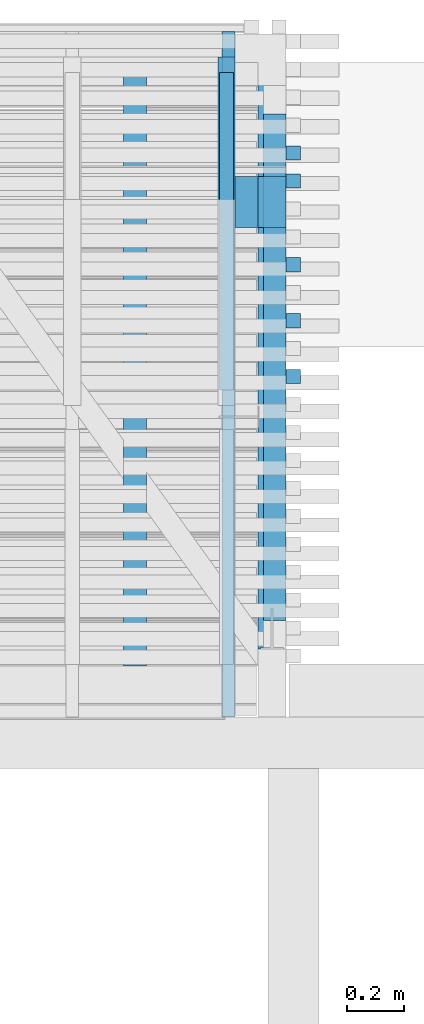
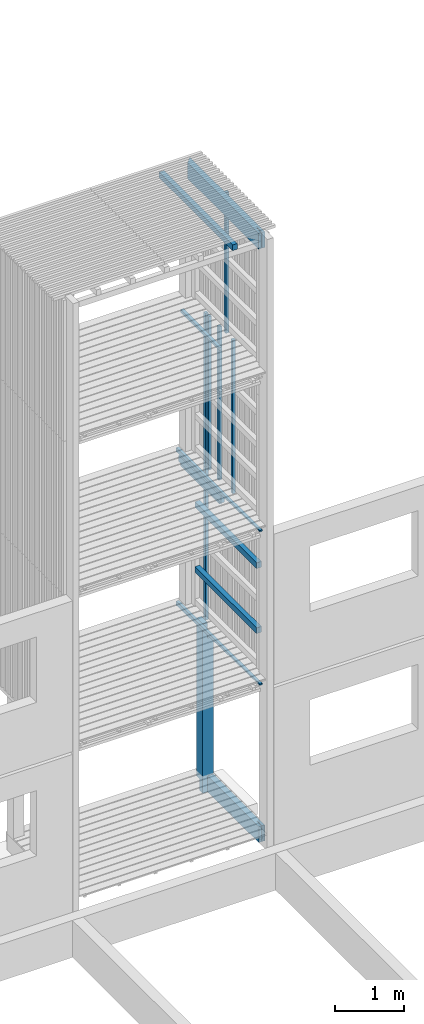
# One storey, part 54 of 182: 17 beams.
"""IFC2X3 building model written with IfcOpenShell, lengths in metres."""

from ifc_helpers import new_model, si_unit, frame, origin, place, context, project, spatial, faceted_brep, element, save


model = new_model("IFC2X3")

# Units and contexts
model_context = context("Model", 3, precision=1e-06, world=origin())
ifc_project = project(units=[si_unit("LENGTHUNIT", "METRE"), si_unit("PLANEANGLEUNIT", "RADIAN")], contexts=[model_context])

# Site, building, storey
site = spatial("IfcSite", under=ifc_project, CompositionType="ELEMENT")
building = spatial("IfcBuilding", under=site, CompositionType="ELEMENT")
storey = spatial("IfcBuildingStorey", under=building, Name="vs", CompositionType="ELEMENT", Elevation=-0.85)

# Beams
placement = place(None, origin())
beam_1_placement = place(placement, frame((16.451697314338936, 10.4700776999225, 2.684400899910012), z_axis=(0.0, 0.0, 1.0), x_axis=(0.0, 1.0, 0.0)))
element("IfcBeam", 1, at=beam_1_placement, inside=storey, Name="Calage", context=model_context, shape_type="Brep", body=[
    faceted_brep([(2.410000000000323, -0.022499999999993, -0.035599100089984), (0.0, -0.022499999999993, 0.012600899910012), (0.0, 0.022500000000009, 0.012600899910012), (2.410000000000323, 0.022500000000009, -0.035599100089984), (0.0, 0.022500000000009, 0.035599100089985), (0.0, 0.022500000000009, 0.012600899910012), (0.0, -0.022499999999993, 0.012600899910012), (0.0, -0.022499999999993, 0.035599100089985), (2.410000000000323, 0.022500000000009, -0.035599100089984), (0.0, 0.022500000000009, 0.012600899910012), (0.0, 0.022500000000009, 0.035599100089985), (2.410000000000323, 0.022500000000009, 0.035599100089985), (2.410000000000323, -0.022499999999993, 0.035599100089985), (0.0, -0.022499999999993, 0.035599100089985), (0.0, -0.022499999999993, 0.012600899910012), (2.410000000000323, -0.022499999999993, -0.035599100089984), (2.410000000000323, 0.022500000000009, 0.035599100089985), (0.0, 0.022500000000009, 0.035599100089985), (0.0, -0.022499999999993, 0.035599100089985), (2.410000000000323, -0.022499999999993, 0.035599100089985), (2.410000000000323, 0.022500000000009, -0.035599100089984), (2.410000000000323, 0.022500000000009, 0.035599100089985), (2.410000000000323, -0.022499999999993, 0.035599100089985), (2.410000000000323, -0.022499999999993, -0.035599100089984)], [[[0, 1, 2, 3]], [[4, 5, 6, 7]], [[8, 9, 10, 11]], [[12, 13, 14, 15]], [[16, 17, 18, 19]], [[20, 21, 22, 23]]]),
])
beam_2_placement = place(placement, frame((16.614197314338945, 10.810077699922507, 4.543749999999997), z_axis=(0.0, 0.0, 1.0), x_axis=(0.0, 1.0, 0.0)))
element("IfcBeam", 2, at=beam_2_placement, inside=storey, Name="Support bardage", context=model_context, shape_type="Brep", body=[
    faceted_brep([(1.779999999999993, -0.039999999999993, 0.050000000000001), (1.779999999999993, -0.039999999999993, -0.050000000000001), (1.779999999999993, 0.04000000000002, -0.050000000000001), (1.779999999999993, 0.04000000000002, 0.050000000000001), (-4e-15, -0.039999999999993, -0.050000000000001), (1.779999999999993, -0.039999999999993, -0.050000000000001), (1.779999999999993, -0.039999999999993, 0.050000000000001), (-4e-15, -0.039999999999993, 0.050000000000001), (-4e-15, 0.04000000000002, -0.050000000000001), (1.779999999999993, 0.04000000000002, -0.050000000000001), (1.779999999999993, -0.039999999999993, -0.050000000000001), (-4e-15, -0.039999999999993, -0.050000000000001), (-4e-15, 0.04000000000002, 0.050000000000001), (1.779999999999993, 0.04000000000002, 0.050000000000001), (1.779999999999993, 0.04000000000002, -0.050000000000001), (-4e-15, 0.04000000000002, -0.050000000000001), (-4e-15, -0.039999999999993, 0.050000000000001), (1.779999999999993, -0.039999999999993, 0.050000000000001), (1.779999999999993, 0.04000000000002, 0.050000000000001), (-4e-15, 0.04000000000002, 0.050000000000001), (-4e-15, -0.039999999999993, -0.050000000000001), (-4e-15, -0.039999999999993, 0.050000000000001), (-4e-15, 0.04000000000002, 0.050000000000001), (-4e-15, 0.04000000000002, -0.050000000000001)], [[[0, 1, 2, 3]], [[4, 5, 6, 7]], [[8, 9, 10, 11]], [[12, 13, 14, 15]], [[16, 17, 18, 19]], [[20, 21, 22, 23]]]),
])
beam_3_placement = place(placement, frame((16.451697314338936, 10.4700776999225, 5.384400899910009), z_axis=(0.0, 0.0, 1.0), x_axis=(0.0, 1.0, 0.0)))
element("IfcBeam", 3, at=beam_3_placement, inside=storey, Name="Calage", context=model_context, shape_type="Brep", body=[
    faceted_brep([(2.410000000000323, -0.022499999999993, -0.035599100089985), (0.0, -0.022499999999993, 0.012600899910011), (0.0, 0.022500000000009, 0.012600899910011), (2.410000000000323, 0.022500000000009, -0.035599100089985), (0.0, 0.022500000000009, 0.035599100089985), (0.0, 0.022500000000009, 0.012600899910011), (0.0, -0.022499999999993, 0.012600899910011), (0.0, -0.022499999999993, 0.035599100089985), (2.410000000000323, 0.022500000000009, -0.035599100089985), (0.0, 0.022500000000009, 0.012600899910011), (0.0, 0.022500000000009, 0.035599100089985), (2.410000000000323, 0.022500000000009, 0.035599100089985), (2.410000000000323, -0.022499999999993, 0.035599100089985), (0.0, -0.022499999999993, 0.035599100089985), (0.0, -0.022499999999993, 0.012600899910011), (2.410000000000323, -0.022499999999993, -0.035599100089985), (2.410000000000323, 0.022500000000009, 0.035599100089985), (0.0, 0.022500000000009, 0.035599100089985), (0.0, -0.022499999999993, 0.035599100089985), (2.410000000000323, -0.022499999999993, 0.035599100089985), (2.410000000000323, 0.022500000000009, -0.035599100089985), (2.410000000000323, 0.022500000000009, 0.035599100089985), (2.410000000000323, -0.022499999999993, 0.035599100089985), (2.410000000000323, -0.022499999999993, -0.035599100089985)], [[[0, 1, 2, 3]], [[4, 5, 6, 7]], [[8, 9, 10, 11]], [[12, 13, 14, 15]], [[16, 17, 18, 19]], [[20, 21, 22, 23]]]),
])
beam_4_placement = place(placement, frame((16.67919731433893, 12.05962315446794, 5.274999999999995), z_axis=(-1.0, 0.0, 0.0), x_axis=(0.0, 0.0, 1.0)))
element("IfcBeam", 4, at=beam_4_placement, inside=storey, Name="Bardage", context=model_context, shape_type="Brep", body=[
    faceted_brep([(1e-15, -0.025000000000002, 0.024999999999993), (1e-15, 0.024999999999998, 0.024999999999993), (1e-15, 0.024999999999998, -0.025000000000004), (1e-15, -0.025000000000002, -0.025000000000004), (2.699999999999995, -0.025000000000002, -0.025000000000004), (2.699999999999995, 0.024999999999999, -0.025000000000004), (2.699999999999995, 0.024999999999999, 0.024999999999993), (2.699999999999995, -0.025000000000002, 0.024999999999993), (1e-15, -0.025000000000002, 0.024999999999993), (1e-15, -0.025000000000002, -0.025000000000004), (2.699999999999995, -0.025000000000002, -0.025000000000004), (2.699999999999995, -0.025000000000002, 0.024999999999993), (2.699999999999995, -0.025000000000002, -0.025000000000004), (1e-15, -0.025000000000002, -0.025000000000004), (1e-15, 0.024999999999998, -0.025000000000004), (2.699999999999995, 0.024999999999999, -0.025000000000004), (2.699999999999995, 0.024999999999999, -0.025000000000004), (1e-15, 0.024999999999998, -0.025000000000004), (1e-15, 0.024999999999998, 0.024999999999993), (2.699999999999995, 0.024999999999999, 0.024999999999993), (2.699999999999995, 0.024999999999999, 0.024999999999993), (1e-15, 0.024999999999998, 0.024999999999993), (1e-15, -0.025000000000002, 0.024999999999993), (2.699999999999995, -0.025000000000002, 0.024999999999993)], [[[0, 1, 2, 3]], [[4, 5, 6, 7]], [[8, 9, 10, 11]], [[12, 13, 14, 15]], [[16, 17, 18, 19]], [[20, 21, 22, 23]]]),
])
beam_5_placement = place(placement, frame((16.60419731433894, 10.715077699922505, 10.314999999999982), z_axis=(0.0, 0.0, 1.0), x_axis=(0.0, 1.0, 0.0)))
element("IfcBeam", 5, at=beam_5_placement, inside=storey, Name="Sommier", context=model_context, shape_type="Brep", body=[
    faceted_brep([(2.054999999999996, 0.049999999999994, 0.140000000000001), (2.054999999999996, 0.049999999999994, -0.140000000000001), (0.0, 0.049999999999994, -0.140000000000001), (0.0, 0.049999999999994, 0.140000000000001), (2.054999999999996, 0.049999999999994, -0.140000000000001), (2.054999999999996, 0.049999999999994, 0.140000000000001), (2.154999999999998, -0.05, 0.140000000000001), (2.154999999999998, -0.05, -0.140000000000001), (-4e-15, -0.003999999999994, 0.140000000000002), (0.0, -0.05, 0.140000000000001), (2.154999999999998, -0.05, 0.140000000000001), (2.054999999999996, 0.049999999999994, 0.140000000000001), (0.0, 0.049999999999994, 0.140000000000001), (-4e-15, 0.004000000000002, 0.140000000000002), (0.136999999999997, 0.004000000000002, 0.140000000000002), (0.136999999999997, -0.003999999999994, 0.140000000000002), (2.154999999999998, -0.05, -0.140000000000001), (2.154999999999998, -0.05, 0.140000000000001), (0.0, -0.05, 0.140000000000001), (0.0, -0.05, -0.140000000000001), (0.0, 0.004000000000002, -0.139999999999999), (-4e-15, 0.004000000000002, 0.140000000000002), (0.0, 0.049999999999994, 0.140000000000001), (0.0, 0.049999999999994, -0.140000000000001), (0.0, -0.05, 0.140000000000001), (-4e-15, -0.003999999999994, 0.140000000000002), (0.0, -0.003999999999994, -0.139999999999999), (0.0, -0.05, -0.140000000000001), (0.0, 0.049999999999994, -0.140000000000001), (2.054999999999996, 0.049999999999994, -0.140000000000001), (2.154999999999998, -0.05, -0.140000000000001), (0.0, -0.05, -0.140000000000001), (0.0, -0.003999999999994, -0.139999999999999), (0.136999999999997, -0.003999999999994, -0.139999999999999), (0.136999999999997, 0.004000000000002, -0.139999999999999), (0.0, 0.004000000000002, -0.139999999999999), (0.136999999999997, 0.004000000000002, -0.139999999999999), (0.136999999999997, -0.003999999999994, -0.139999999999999), (0.136999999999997, -0.003999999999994, 0.140000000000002), (0.136999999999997, 0.004000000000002, 0.140000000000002), (-4e-15, -0.003999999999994, 0.140000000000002), (0.136999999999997, -0.003999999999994, 0.140000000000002), (0.136999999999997, -0.003999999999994, -0.139999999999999), (0.0, -0.003999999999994, -0.139999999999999), (0.136999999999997, 0.004000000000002, 0.140000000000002), (-4e-15, 0.004000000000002, 0.140000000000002), (0.0, 0.004000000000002, -0.139999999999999), (0.136999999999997, 0.004000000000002, -0.139999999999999)], [[[0, 1, 2, 3]], [[4, 5, 6, 7]], [[8, 9, 10, 11, 12, 13, 14, 15]], [[16, 17, 18, 19]], [[20, 21, 22, 23]], [[24, 25, 26, 27]], [[28, 29, 30, 31, 32, 33, 34, 35]], [[36, 37, 38, 39]], [[40, 41, 42, 43]], [[44, 45, 46, 47]]]),
])
beam_6_placement = place(placement, frame((16.67919731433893, 12.452350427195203, 2.575000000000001), z_axis=(-1.0, 0.0, 0.0), x_axis=(0.0, 0.0, 1.0)))
element("IfcBeam", 6, at=beam_6_placement, inside=storey, Name="Bardage", context=model_context, shape_type="Brep", body=[
    faceted_brep([(0.0, -0.024999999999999, 0.024999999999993), (0.0, 0.025000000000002, 0.024999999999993), (0.0, 0.025000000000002, -0.025000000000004), (0.0, -0.024999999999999, -0.025000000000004), (2.699961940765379, 0.025000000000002, -0.025000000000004), (2.699961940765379, 0.025000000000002, 0.024999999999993), (2.699961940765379, -0.024999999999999, 0.024999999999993), (2.699961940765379, -0.024999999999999, -0.025000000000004), (0.0, -0.024999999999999, -0.025000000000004), (0.0, 0.025000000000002, -0.025000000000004), (2.699961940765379, 0.025000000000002, -0.025000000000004), (2.699961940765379, -0.024999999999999, -0.025000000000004), (2.699961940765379, 0.025000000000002, -0.025000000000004), (0.0, 0.025000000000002, -0.025000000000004), (0.0, 0.025000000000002, 0.024999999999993), (2.699961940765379, 0.025000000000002, 0.024999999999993), (2.699961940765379, 0.025000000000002, 0.024999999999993), (0.0, 0.025000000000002, 0.024999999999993), (0.0, -0.024999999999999, 0.024999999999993), (2.699961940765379, -0.024999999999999, 0.024999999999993), (2.699961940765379, -0.024999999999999, 0.024999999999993), (0.0, -0.024999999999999, 0.024999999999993), (0.0, -0.024999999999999, -0.025000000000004), (2.699961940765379, -0.024999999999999, -0.025000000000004)], [[[0, 1, 2, 3]], [[4, 5, 6, 7]], [[8, 9, 10, 11]], [[12, 13, 14, 15]], [[16, 17, 18, 19]], [[20, 21, 22, 23]]]),
])
for number, where, z_axis, x_axis in (
    (7, (16.44419731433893, 12.735077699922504, 7.91739999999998), (0.0, 0.0, 1.0), (0.0, -1.0, 0.0)),
    (8, (16.44419731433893, 12.735077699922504, 5.217399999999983), (0.0, 0.0, 1.0), (0.0, -1.0, 0.0)),
):
    element("IfcBeam", number, at=place(placement, frame(where, z_axis=z_axis, x_axis=x_axis)), inside=storey, Name="Calage", context=model_context, shape_type="Brep", body=[
        faceted_brep([(0.0, 0.025000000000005, -0.025), (0.0, -0.024999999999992, -0.025), (0.0, -0.024999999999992, 0.024999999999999), (0.0, 0.025000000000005, 0.024999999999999), (1.115000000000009, -0.024999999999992, 0.024999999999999), (1.115000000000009, -0.024999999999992, -0.025), (1.115000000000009, 0.025000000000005, -0.025), (1.115000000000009, 0.025000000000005, 0.024999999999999), (0.0, -0.024999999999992, 0.024999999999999), (0.0, -0.024999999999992, -0.025), (1.115000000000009, -0.024999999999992, -0.025), (1.115000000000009, -0.024999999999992, 0.024999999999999), (1.115000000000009, -0.024999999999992, -0.025), (0.0, -0.024999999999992, -0.025), (0.0, 0.025000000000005, -0.025), (1.115000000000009, 0.025000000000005, -0.025), (1.115000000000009, 0.025000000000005, -0.025), (0.0, 0.025000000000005, -0.025), (0.0, 0.025000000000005, 0.024999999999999), (1.115000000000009, 0.025000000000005, 0.024999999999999), (1.115000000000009, 0.025000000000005, 0.024999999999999), (0.0, 0.025000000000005, 0.024999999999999), (0.0, -0.024999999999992, 0.024999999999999), (1.115000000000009, -0.024999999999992, 0.024999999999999)], [[[0, 1, 2, 3]], [[4, 5, 6, 7]], [[8, 9, 10, 11]], [[12, 13, 14, 15]], [[16, 17, 18, 19]], [[20, 21, 22, 23]]]),
    ])
beam_7_placement = place(placement, frame((16.60419731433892, 10.710077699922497, -0.119999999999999), z_axis=(0.0, 0.0, 1.0), x_axis=(0.0, 1.0, 0.0)))
element("IfcBeam", 9, at=beam_7_placement, inside=storey, Name="Sommier", context=model_context, shape_type="Brep", body=[
    faceted_brep([(1.660000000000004, 0.049999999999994, 0.14), (1.660000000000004, -0.050000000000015, 0.14), (1.660000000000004, -0.050000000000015, -0.14), (1.660000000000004, 0.049999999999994, -0.14), (0.142000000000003, -0.004000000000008, -0.14), (0.142000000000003, 0.003999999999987, -0.14), (0.005000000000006, 0.003999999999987, -0.14), (0.005000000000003, 0.040999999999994, -0.14), (4e-15, 0.040999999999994, -0.14), (0.0, 0.049999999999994, -0.14), (1.660000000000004, 0.049999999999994, -0.14), (1.660000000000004, -0.050000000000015, -0.14), (0.0, -0.050000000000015, -0.14), (4e-15, -0.041000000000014, -0.14), (0.005000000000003, -0.041000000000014, -0.14), (0.005000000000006, -0.004000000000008, -0.14), (1.660000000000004, 0.049999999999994, 0.14), (1.660000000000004, 0.049999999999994, -0.14), (0.0, 0.049999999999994, -0.14), (0.0, 0.049999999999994, 0.14), (0.852999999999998, 0.049999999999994, -0.123600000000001), (0.852999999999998, 0.049999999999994, 0.051399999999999), (0.776999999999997, 0.049999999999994, 0.051399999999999), (0.776999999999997, 0.049999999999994, -0.123600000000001), (0.0, -0.050000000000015, 0.14), (4e-15, -0.041000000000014, 0.14), (4e-15, -0.041000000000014, -0.14), (0.0, -0.050000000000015, -0.14), (0.852999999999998, 0.044999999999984, -0.123600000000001), (0.776999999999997, 0.044999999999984, -0.123600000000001), (0.776999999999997, 0.044999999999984, 0.051399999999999), (0.852999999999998, 0.044999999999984, 0.051399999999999), (0.852999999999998, 0.044999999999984, 0.051399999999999), (0.776999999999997, 0.044999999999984, 0.051399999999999), (0.776999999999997, 0.049999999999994, 0.051399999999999), (0.852999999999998, 0.049999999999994, 0.051399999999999), (0.776999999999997, 0.044999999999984, -0.123600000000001), (0.852999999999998, 0.044999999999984, -0.123600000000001), (0.852999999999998, 0.049999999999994, -0.123600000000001), (0.776999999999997, 0.049999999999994, -0.123600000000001), (0.852999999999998, 0.049999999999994, 0.051399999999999), (0.852999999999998, 0.049999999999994, -0.123600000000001), (0.852999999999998, 0.044999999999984, -0.123600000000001), (0.852999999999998, 0.044999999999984, 0.051399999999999), (0.776999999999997, 0.044999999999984, 0.051399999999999), (0.776999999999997, 0.044999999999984, -0.123600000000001), (0.776999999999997, 0.049999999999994, -0.123600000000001), (0.776999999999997, 0.049999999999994, 0.051399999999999), (0.0, -0.050000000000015, -0.14), (1.660000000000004, -0.050000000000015, -0.14), (1.660000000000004, -0.050000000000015, 0.14), (0.0, -0.050000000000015, 0.14), (0.0, 0.049999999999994, 0.14), (0.0, 0.049999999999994, -0.14), (4e-15, 0.040999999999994, -0.14), (4e-15, 0.040999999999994, 0.14), (0.0, -0.050000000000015, 0.14), (1.660000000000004, -0.050000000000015, 0.14), (1.660000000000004, 0.049999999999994, 0.14), (0.0, 0.049999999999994, 0.14), (4e-15, 0.040999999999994, 0.14), (0.005000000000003, 0.040999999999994, 0.14), (0.005000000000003, 0.003999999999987, 0.14), (0.142000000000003, 0.003999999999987, 0.140000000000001), (0.142000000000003, -0.004000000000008, 0.140000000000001), (0.005000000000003, -0.004000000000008, 0.14), (0.005000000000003, -0.041000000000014, 0.14), (4e-15, -0.041000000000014, 0.14), (0.142000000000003, 0.003999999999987, -0.14), (0.142000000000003, -0.004000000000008, -0.14), (0.142000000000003, -0.004000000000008, 0.140000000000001), (0.142000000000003, 0.003999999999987, 0.140000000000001), (0.005000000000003, -0.004000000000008, 0.14), (0.142000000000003, -0.004000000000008, 0.140000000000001), (0.142000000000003, -0.004000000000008, -0.14), (0.005000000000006, -0.004000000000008, -0.14), (0.005000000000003, -0.004000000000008, 0.14), (0.005000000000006, -0.004000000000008, -0.14), (0.005000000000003, -0.041000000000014, -0.14), (0.005000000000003, -0.041000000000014, 0.14), (0.005000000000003, -0.041000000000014, 0.14), (0.005000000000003, -0.041000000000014, -0.14), (4e-15, -0.041000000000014, -0.14), (4e-15, -0.041000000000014, 0.14), (4e-15, 0.040999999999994, 0.14), (4e-15, 0.040999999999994, -0.14), (0.005000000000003, 0.040999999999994, -0.14), (0.005000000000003, 0.040999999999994, 0.14), (0.005000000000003, 0.040999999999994, 0.14), (0.005000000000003, 0.040999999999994, -0.14), (0.005000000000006, 0.003999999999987, -0.14), (0.005000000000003, 0.003999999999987, 0.14), (0.142000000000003, 0.003999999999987, 0.140000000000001), (0.005000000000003, 0.003999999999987, 0.14), (0.005000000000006, 0.003999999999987, -0.14), (0.142000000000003, 0.003999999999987, -0.14)], [[[0, 1, 2, 3]], [[4, 5, 6, 7, 8, 9, 10, 11, 12, 13, 14, 15]], [[16, 17, 18, 19], [20, 21, 22, 23]], [[24, 25, 26, 27]], [[28, 29, 30, 31]], [[32, 33, 34, 35]], [[36, 37, 38, 39]], [[40, 41, 42, 43]], [[44, 45, 46, 47]], [[48, 49, 50, 51]], [[52, 53, 54, 55]], [[56, 57, 58, 59, 60, 61, 62, 63, 64, 65, 66, 67]], [[68, 69, 70, 71]], [[72, 73, 74, 75]], [[76, 77, 78, 79]], [[80, 81, 82, 83]], [[84, 85, 86, 87]], [[88, 89, 90, 91]], [[92, 93, 94, 95]]]),
])
beam_8_placement = place(placement, frame((16.44419731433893, 11.565077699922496, 5.304249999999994), z_axis=(0.0, 0.0, 1.0), x_axis=(0.0, 1.0, 0.0)))
element("IfcBeam", 10, at=beam_8_placement, inside=storey, Name="Solive", context=model_context, shape_type="Brep", body=[
    faceted_brep([(0.0, -0.03, 0.061850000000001), (0.0, -0.03, -0.061849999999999), (1.225000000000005, -0.03, -0.061849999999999), (1.225000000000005, -0.03, 0.03735), (0.0, -0.03, -0.061849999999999), (0.0, -0.03, 0.061850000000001), (0.0, 0.029999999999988, 0.06185), (0.0, 0.029999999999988, -0.061849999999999), (1.225000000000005, -0.03, -0.061849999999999), (0.0, -0.03, -0.061849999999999), (0.0, 0.029999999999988, -0.061849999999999), (1.225000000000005, 0.029999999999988, -0.061849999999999), (1.225000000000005, 0.029999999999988, 0.03735), (1.225000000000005, 0.029999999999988, -0.061849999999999), (0.0, 0.029999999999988, -0.061849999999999), (0.0, 0.029999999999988, 0.06185), (1.225000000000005, -0.03, 0.03735), (1.225000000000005, -0.03, -0.061849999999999), (1.225000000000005, 0.029999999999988, -0.061849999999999), (1.225000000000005, 0.029999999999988, 0.03735), (1.225000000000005, -0.03, 0.03735), (1.225000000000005, 0.029999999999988, 0.03735), (0.0, 0.029999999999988, 0.06185), (0.0, -0.03, 0.061850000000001)], [[[0, 1, 2, 3]], [[4, 5, 6, 7]], [[8, 9, 10, 11]], [[12, 13, 14, 15]], [[16, 17, 18, 19]], [[20, 21, 22, 23]]]),
])
beam_9_placement = place(placement, frame((16.564197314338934, 12.2800776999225, -0.26), z_axis=(0.0, -1.0, 0.0), x_axis=(0.0, 0.0, 1.0)))
element("IfcBeam", 11, at=beam_9_placement, inside=storey, Name="Poteau", context=model_context, shape_type="Brep", body=[
    faceted_brep([(2.699999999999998, -0.09, -0.09), (2.699999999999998, -0.09, 0.09), (0.28, -0.09, 0.09), (0.280000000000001, -0.09, -0.09), (0.0, 0.090000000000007, 0.09), (0.0, 0.090000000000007, -0.009999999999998), (0.0, 0.010000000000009, -0.009999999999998), (0.0, 0.010000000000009, 0.09), (0.280000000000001, -0.09, -0.09), (0.28, -0.09, 0.09), (0.28, 0.010000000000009, 0.09), (0.28, 0.010000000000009, -0.09), (0.200000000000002, 0.090000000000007, -0.09), (0.200000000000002, 0.010000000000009, -0.09), (0.200000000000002, 0.010000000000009, -0.009999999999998), (0.200000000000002, 0.090000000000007, -0.009999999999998), (0.200000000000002, 0.090000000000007, -0.009999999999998), (0.200000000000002, 0.010000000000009, -0.009999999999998), (0.0, 0.010000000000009, -0.009999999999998), (0.0, 0.090000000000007, -0.009999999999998), (0.0, 0.010000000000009, -0.009999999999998), (0.200000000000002, 0.010000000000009, -0.009999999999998), (0.200000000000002, 0.010000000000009, -0.09), (0.28, 0.010000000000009, -0.09), (0.28, 0.010000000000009, 0.09), (0.0, 0.010000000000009, 0.09), (2.979999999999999, 0.010000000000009, -0.09), (2.699999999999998, 0.010000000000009, -0.09), (2.699999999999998, -0.09, -0.09), (0.280000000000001, -0.09, -0.09), (0.28, 0.010000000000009, -0.09), (0.200000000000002, 0.010000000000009, -0.09), (0.200000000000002, 0.090000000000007, -0.09), (2.979999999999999, 0.090000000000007, -0.09), (2.979999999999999, 0.090000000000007, -0.09), (0.200000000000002, 0.090000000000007, -0.09), (0.200000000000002, 0.090000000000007, -0.009999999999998), (0.0, 0.090000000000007, -0.009999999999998), (0.0, 0.090000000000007, 0.09), (2.979999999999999, 0.090000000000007, 0.09), (2.699999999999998, 0.010000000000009, 0.09), (2.979999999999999, 0.010000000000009, 0.09), (2.979999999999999, 0.090000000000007, 0.09), (0.0, 0.090000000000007, 0.09), (0.0, 0.010000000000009, 0.09), (0.28, 0.010000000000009, 0.09), (0.28, -0.09, 0.09), (2.699999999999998, -0.09, 0.09), (2.979999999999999, 0.090000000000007, -0.09), (2.979999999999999, 0.090000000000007, 0.09), (2.979999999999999, 0.010000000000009, 0.09), (2.979999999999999, 0.010000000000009, -0.09), (2.979999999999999, 0.010000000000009, -0.09), (2.979999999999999, 0.010000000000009, 0.09), (2.699999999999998, 0.010000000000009, 0.09), (2.699999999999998, 0.010000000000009, -0.09), (2.699999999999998, 0.010000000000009, -0.09), (2.699999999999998, 0.010000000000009, 0.09), (2.699999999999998, -0.09, 0.09), (2.699999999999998, -0.09, -0.09)], [[[0, 1, 2, 3]], [[4, 5, 6, 7]], [[8, 9, 10, 11]], [[12, 13, 14, 15]], [[16, 17, 18, 19]], [[20, 21, 22, 23, 24, 25]], [[26, 27, 28, 29, 30, 31, 32, 33]], [[34, 35, 36, 37, 38, 39]], [[40, 41, 42, 43, 44, 45, 46, 47]], [[48, 49, 50, 51]], [[52, 53, 54, 55]], [[56, 57, 58, 59]]]),
])
beam_10_placement = place(placement, frame((16.67919731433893, 11.863259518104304, 7.974999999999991), z_axis=(-1.0, 0.0, 0.0), x_axis=(0.0, 0.0, 1.0)))
element("IfcBeam", 12, at=beam_10_placement, inside=storey, Name="Bardage", context=model_context, shape_type="Brep", body=[
    faceted_brep([(2.479999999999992, -0.024999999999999, 0.024999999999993), (2.479999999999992, -0.024999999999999, -0.025000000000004), (2.479999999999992, 0.024999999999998, -0.025000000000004), (2.479999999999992, 0.024999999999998, 0.024999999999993), (0.0, 0.024999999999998, 0.024999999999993), (0.0, -0.024999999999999, 0.024999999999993), (2.479999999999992, -0.024999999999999, 0.024999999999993), (2.479999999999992, 0.024999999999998, 0.024999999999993), (0.0, -0.024999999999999, 0.024999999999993), (0.0, 0.024999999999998, 0.024999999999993), (0.0, 0.024999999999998, -0.025000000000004), (0.0, -0.024999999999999, -0.025000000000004), (0.0, 0.024999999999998, -0.025000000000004), (0.0, 0.024999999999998, 0.024999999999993), (2.479999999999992, 0.024999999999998, 0.024999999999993), (2.479999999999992, 0.024999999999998, -0.025000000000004), (0.0, -0.024999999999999, -0.025000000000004), (0.0, 0.024999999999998, -0.025000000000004), (2.479999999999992, 0.024999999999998, -0.025000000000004), (2.479999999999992, -0.024999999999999, -0.025000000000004), (2.479999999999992, -0.024999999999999, 0.024999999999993), (0.0, -0.024999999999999, 0.024999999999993), (0.0, -0.024999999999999, -0.025000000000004), (2.479999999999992, -0.024999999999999, -0.025000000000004)], [[[0, 1, 2, 3]], [[4, 5, 6, 7]], [[8, 9, 10, 11]], [[12, 13, 14, 15]], [[16, 17, 18, 19]], [[20, 21, 22, 23]]]),
])
beam_11_placement = place(placement, frame((16.67919731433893, 12.354168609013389, 5.274999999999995), z_axis=(-1.0, 0.0, 0.0), x_axis=(0.0, 0.0, 1.0)))
element("IfcBeam", 13, at=beam_11_placement, inside=storey, Name="Bardage", context=model_context, shape_type="Brep", body=[
    faceted_brep([(1e-15, -0.024999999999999, 0.024999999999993), (1e-15, 0.024999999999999, 0.024999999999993), (1e-15, 0.024999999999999, -0.025000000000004), (1e-15, -0.024999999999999, -0.025000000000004), (2.699999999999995, -0.024999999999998, -0.025000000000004), (2.699999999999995, 0.024999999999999, -0.025000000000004), (2.699999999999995, 0.024999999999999, 0.024999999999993), (2.699999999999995, -0.024999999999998, 0.024999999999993), (1e-15, -0.024999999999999, 0.024999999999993), (1e-15, -0.024999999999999, -0.025000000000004), (2.699999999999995, -0.024999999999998, -0.025000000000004), (2.699999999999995, -0.024999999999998, 0.024999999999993), (2.699999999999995, -0.024999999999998, -0.025000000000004), (1e-15, -0.024999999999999, -0.025000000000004), (1e-15, 0.024999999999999, -0.025000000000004), (2.699999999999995, 0.024999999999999, -0.025000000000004), (2.699999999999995, 0.024999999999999, -0.025000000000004), (1e-15, 0.024999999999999, -0.025000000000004), (1e-15, 0.024999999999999, 0.024999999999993), (2.699999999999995, 0.024999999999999, 0.024999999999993), (2.699999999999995, 0.024999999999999, 0.024999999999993), (1e-15, 0.024999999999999, 0.024999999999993), (1e-15, -0.024999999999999, 0.024999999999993), (2.699999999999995, -0.024999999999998, 0.024999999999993)], [[[0, 1, 2, 3]], [[4, 5, 6, 7]], [[8, 9, 10, 11]], [[12, 13, 14, 15]], [[16, 17, 18, 19]], [[20, 21, 22, 23]]]),
])
beam_12_placement = place(placement, frame((16.12253064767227, 10.650077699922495, 10.404999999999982), z_axis=(0.0, 0.0, 1.0), x_axis=(0.0, 1.0, 0.0)))
element("IfcBeam", 14, at=beam_12_placement, inside=storey, Name="Support bardage", context=model_context, shape_type="Brep", body=[
    faceted_brep([(2.120000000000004, -0.040000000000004, 0.050000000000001), (2.120000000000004, 0.039999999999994, 0.050000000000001), (3e-15, 0.039999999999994, 0.050000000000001), (3e-15, -0.040000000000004, 0.050000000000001), (3e-15, 0.039999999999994, 0.050000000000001), (2.120000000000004, 0.039999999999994, 0.050000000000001), (2.120000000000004, 0.039999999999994, -0.050000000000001), (3e-15, 0.039999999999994, -0.050000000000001), (2.120000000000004, 0.039999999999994, 0.050000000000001), (2.120000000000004, -0.040000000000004, 0.050000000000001), (2.120000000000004, -0.040000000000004, -0.050000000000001), (2.120000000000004, 0.039999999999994, -0.050000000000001), (2.120000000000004, -0.040000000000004, -0.050000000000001), (2.120000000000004, -0.040000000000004, 0.050000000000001), (3e-15, -0.040000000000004, 0.050000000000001), (3e-15, -0.040000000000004, -0.050000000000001), (3e-15, 0.039999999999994, -0.050000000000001), (2.120000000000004, 0.039999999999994, -0.050000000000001), (2.120000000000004, -0.040000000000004, -0.050000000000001), (3e-15, -0.040000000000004, -0.050000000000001), (3e-15, 0.039999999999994, 0.050000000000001), (3e-15, 0.039999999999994, -0.050000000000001), (3e-15, -0.040000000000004, -0.050000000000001), (3e-15, -0.040000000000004, 0.050000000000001)], [[[0, 1, 2, 3]], [[4, 5, 6, 7]], [[8, 9, 10, 11]], [[12, 13, 14, 15]], [[16, 17, 18, 19]], [[20, 21, 22, 23]]]),
])
beam_13_placement = place(placement, frame((16.614197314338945, 10.810077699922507, 3.401250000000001), z_axis=(0.0, 0.0, 1.0), x_axis=(0.0, 1.0, 0.0)))
element("IfcBeam", 15, at=beam_13_placement, inside=storey, Name="Support bardage", context=model_context, shape_type="Brep", body=[
    faceted_brep([(1.779999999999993, -0.039999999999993, 0.05), (1.779999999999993, -0.039999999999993, -0.050000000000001), (1.779999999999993, 0.04000000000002, -0.050000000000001), (1.779999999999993, 0.04000000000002, 0.05), (-4e-15, -0.039999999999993, -0.050000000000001), (1.779999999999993, -0.039999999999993, -0.050000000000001), (1.779999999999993, -0.039999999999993, 0.05), (-4e-15, -0.039999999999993, 0.05), (-4e-15, 0.04000000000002, -0.050000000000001), (1.779999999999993, 0.04000000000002, -0.050000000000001), (1.779999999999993, -0.039999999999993, -0.050000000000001), (-4e-15, -0.039999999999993, -0.050000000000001), (-4e-15, 0.04000000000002, 0.05), (1.779999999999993, 0.04000000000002, 0.05), (1.779999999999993, 0.04000000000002, -0.050000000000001), (-4e-15, 0.04000000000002, -0.050000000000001), (-4e-15, -0.039999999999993, 0.05), (1.779999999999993, -0.039999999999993, 0.05), (1.779999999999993, 0.04000000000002, 0.05), (-4e-15, 0.04000000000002, 0.05), (-4e-15, -0.039999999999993, -0.050000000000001), (-4e-15, -0.039999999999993, 0.05), (-4e-15, 0.04000000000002, 0.05), (-4e-15, 0.04000000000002, -0.050000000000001)], [[[0, 1, 2, 3]], [[4, 5, 6, 7]], [[8, 9, 10, 11]], [[12, 13, 14, 15]], [[16, 17, 18, 19]], [[20, 21, 22, 23]]]),
])
beam_14_placement = place(placement, frame((16.67919731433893, 12.452350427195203, 5.274999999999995), z_axis=(-1.0, 0.0, 0.0), x_axis=(0.0, 0.0, 1.0)))
element("IfcBeam", 16, at=beam_14_placement, inside=storey, Name="Bardage", context=model_context, shape_type="Brep", body=[
    faceted_brep([(1e-15, -0.024999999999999, 0.024999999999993), (1e-15, 0.025000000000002, 0.024999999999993), (1e-15, 0.025000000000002, -0.025000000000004), (1e-15, -0.024999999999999, -0.025000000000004), (2.699999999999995, -0.024999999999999, -0.025000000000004), (2.699999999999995, 0.025000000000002, -0.025000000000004), (2.699999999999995, 0.025000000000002, 0.024999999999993), (2.699999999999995, -0.024999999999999, 0.024999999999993), (1e-15, -0.024999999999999, 0.024999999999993), (1e-15, -0.024999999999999, -0.025000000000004), (2.699999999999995, -0.024999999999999, -0.025000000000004), (2.699999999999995, -0.024999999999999, 0.024999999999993), (2.699999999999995, -0.024999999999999, -0.025000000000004), (1e-15, -0.024999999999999, -0.025000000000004), (1e-15, 0.025000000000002, -0.025000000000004), (2.699999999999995, 0.025000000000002, -0.025000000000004), (2.699999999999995, 0.025000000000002, -0.025000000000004), (1e-15, 0.025000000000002, -0.025000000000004), (1e-15, 0.025000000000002, 0.024999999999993), (2.699999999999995, 0.025000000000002, 0.024999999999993), (2.699999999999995, 0.025000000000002, 0.024999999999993), (1e-15, 0.025000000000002, 0.024999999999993), (1e-15, -0.024999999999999, 0.024999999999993), (2.699999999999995, -0.024999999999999, 0.024999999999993)], [[[0, 1, 2, 3]], [[4, 5, 6, 7]], [[8, 9, 10, 11]], [[12, 13, 14, 15]], [[16, 17, 18, 19]], [[20, 21, 22, 23]]]),
])
beam_15_placement = place(placement, frame((16.67919731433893, 11.666895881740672, 5.274999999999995), z_axis=(-1.0, 0.0, 0.0), x_axis=(0.0, 0.0, 1.0)))
element("IfcBeam", 17, at=beam_15_placement, inside=storey, Name="Bardage", context=model_context, shape_type="Brep", body=[
    faceted_brep([(1e-15, -0.025000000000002, 0.024999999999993), (1e-15, 0.024999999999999, 0.024999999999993), (1e-15, 0.024999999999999, -0.025000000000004), (1e-15, -0.025000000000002, -0.025000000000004), (2.699999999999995, -0.025000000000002, -0.025000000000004), (2.699999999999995, 0.024999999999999, -0.025000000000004), (2.699999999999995, 0.024999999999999, 0.024999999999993), (2.699999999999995, -0.025000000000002, 0.024999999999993), (1e-15, -0.025000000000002, 0.024999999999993), (1e-15, -0.025000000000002, -0.025000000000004), (2.699999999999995, -0.025000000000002, -0.025000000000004), (2.699999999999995, -0.025000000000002, 0.024999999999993), (2.699999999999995, -0.025000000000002, -0.025000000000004), (1e-15, -0.025000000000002, -0.025000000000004), (1e-15, 0.024999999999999, -0.025000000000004), (2.699999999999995, 0.024999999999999, -0.025000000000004), (2.699999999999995, 0.024999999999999, -0.025000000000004), (1e-15, 0.024999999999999, -0.025000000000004), (1e-15, 0.024999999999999, 0.024999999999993), (2.699999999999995, 0.024999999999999, 0.024999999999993), (2.699999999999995, 0.024999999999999, 0.024999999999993), (1e-15, 0.024999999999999, 0.024999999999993), (1e-15, -0.025000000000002, 0.024999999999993), (2.699999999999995, -0.025000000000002, 0.024999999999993)], [[[0, 1, 2, 3]], [[4, 5, 6, 7]], [[8, 9, 10, 11]], [[12, 13, 14, 15]], [[16, 17, 18, 19]], [[20, 21, 22, 23]]]),
])

save(model, "model.ifc")
